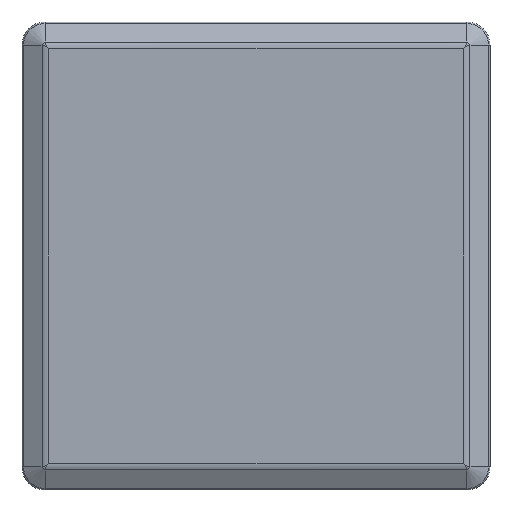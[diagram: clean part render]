
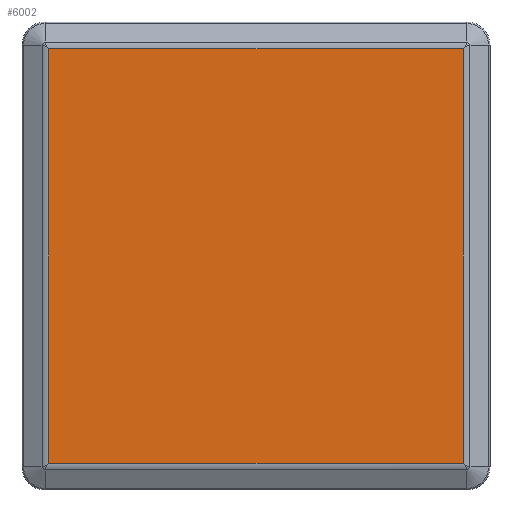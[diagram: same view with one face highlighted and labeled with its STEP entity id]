
A CAD part, front view. The second image highlights one B-rep face of the part: STEP entity #6002.
In plain terms, the highlighted planar face has unit normal (0, -1, 0).
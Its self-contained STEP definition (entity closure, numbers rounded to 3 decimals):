
#154 = DIRECTION ( 'NONE',  ( 0., 0., -1. ) ) ;
#177 = ORIENTED_EDGE ( 'NONE', *, *, #3948, .T. ) ;
#323 = EDGE_CURVE ( 'NONE', #5525, #5271, #2326, .T. ) ;
#377 = DIRECTION ( 'NONE',  ( 0., -1., 0. ) ) ;
#388 = DIRECTION ( 'NONE',  ( 1., 0., 0. ) ) ;
#573 = VECTOR ( 'NONE', #154, 1000. ) ;
#1081 = CARTESIAN_POINT ( 'NONE',  ( -32., 0., 31.464 ) ) ;
#1637 = EDGE_CURVE ( 'NONE', #2287, #3086, #7253, .T. ) ;
#2040 = VECTOR ( 'NONE', #2841, 1000. ) ;
#2287 = VERTEX_POINT ( 'NONE', #3812 ) ;
#2326 = LINE ( 'NONE', #5849, #5982 ) ;
#2782 = AXIS2_PLACEMENT_3D ( 'NONE', #7890, #377, #5187 ) ;
#2841 = DIRECTION ( 'NONE',  ( 0., 0., 1. ) ) ;
#3086 = VERTEX_POINT ( 'NONE', #5679 ) ;
#3107 = PLANE ( 'NONE',  #2782 ) ;
#3187 = ORIENTED_EDGE ( 'NONE', *, *, #323, .T. ) ;
#3209 = EDGE_LOOP ( 'NONE', ( #177, #3187, #3282, #7480 ) ) ;
#3282 = ORIENTED_EDGE ( 'NONE', *, *, #5220, .T. ) ;
#3812 = CARTESIAN_POINT ( 'NONE',  ( 31.464, 0., 31.464 ) ) ;
#3948 = EDGE_CURVE ( 'NONE', #3086, #5525, #4013, .T. ) ;
#4013 = LINE ( 'NONE', #4279, #573 ) ;
#4279 = CARTESIAN_POINT ( 'NONE',  ( -31.464, 0., 32. ) ) ;
#4953 = CARTESIAN_POINT ( 'NONE',  ( 31.464, 0., 32. ) ) ;
#5187 = DIRECTION ( 'NONE',  ( 0., 0., -1. ) ) ;
#5220 = EDGE_CURVE ( 'NONE', #5271, #2287, #5700, .T. ) ;
#5271 = VERTEX_POINT ( 'NONE', #7040 ) ;
#5525 = VERTEX_POINT ( 'NONE', #7431 ) ;
#5679 = CARTESIAN_POINT ( 'NONE',  ( -31.464, 0., 31.464 ) ) ;
#5700 = LINE ( 'NONE', #4953, #2040 ) ;
#5849 = CARTESIAN_POINT ( 'NONE',  ( -32., 0., -31.464 ) ) ;
#5868 = DIRECTION ( 'NONE',  ( -1., 0., 0. ) ) ;
#5982 = VECTOR ( 'NONE', #388, 1000. ) ;
#6002 = ADVANCED_FACE ( 'NONE', ( #6120 ), #3107, .T. ) ;
#6120 = FACE_OUTER_BOUND ( 'NONE', #3209, .T. ) ;
#7017 = VECTOR ( 'NONE', #5868, 1000. ) ;
#7040 = CARTESIAN_POINT ( 'NONE',  ( 31.464, 0., -31.464 ) ) ;
#7253 = LINE ( 'NONE', #1081, #7017 ) ;
#7431 = CARTESIAN_POINT ( 'NONE',  ( -31.464, 0., -31.464 ) ) ;
#7480 = ORIENTED_EDGE ( 'NONE', *, *, #1637, .T. ) ;
#7890 = CARTESIAN_POINT ( 'NONE',  ( -32., 0., 32. ) ) ;
